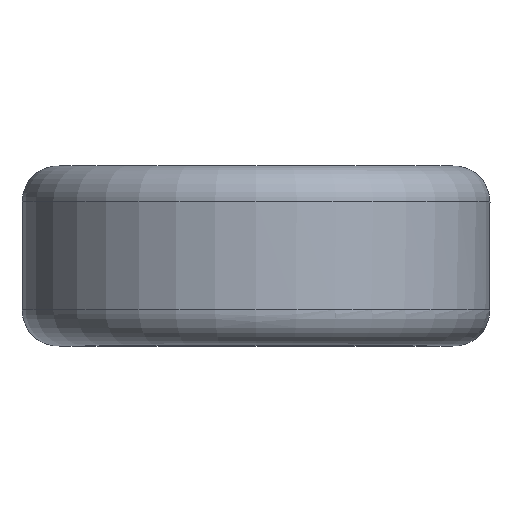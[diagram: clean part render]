
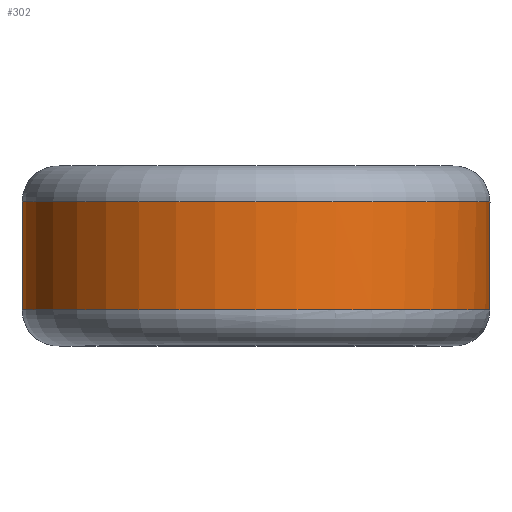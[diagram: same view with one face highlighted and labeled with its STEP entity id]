
A CAD part, top view. The second image highlights one B-rep face of the part: STEP entity #302.
In plain terms, the highlighted cylindrical face has radius 6.5 mm (diameter 13 mm), a full revolution.
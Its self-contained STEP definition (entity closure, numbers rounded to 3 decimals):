
#24=B_SPLINE_CURVE_WITH_KNOTS('',3,(#1104,#1105,#1106,#1107,#1108,#1109,
#1110,#1111,#1112,#1113),.UNSPECIFIED.,.F.,.F.,(4,1,1,1,1,1,1,4),(-0.221,
-0.19,-0.158,-0.126,-0.095,
-0.063,-0.032,0.),.UNSPECIFIED.);
#26=B_SPLINE_CURVE_WITH_KNOTS('',3,(#1182,#1183,#1184,#1185,#1186,#1187,
#1188,#1189,#1190,#1191),.UNSPECIFIED.,.F.,.F.,(4,1,1,1,1,1,1,4),(-0.221,
-0.19,-0.158,-0.126,-0.095,
-0.047,-0.032,0.),.UNSPECIFIED.);
#72=FACE_OUTER_BOUND('',#92,.T.);
#92=EDGE_LOOP('',(#241,#242,#243,#244,#245,#246,#247,#248,#249,#250));
#105=LINE('',#1176,#108);
#108=VECTOR('',#407,6.5);
#120=CIRCLE('',#347,6.5);
#121=CIRCLE('',#348,6.5);
#122=CIRCLE('',#349,6.5);
#123=CIRCLE('',#351,6.5);
#124=CIRCLE('',#352,6.5);
#125=CIRCLE('',#353,6.5);
#143=VERTEX_POINT('',#1100);
#144=VERTEX_POINT('',#1102);
#147=VERTEX_POINT('',#1168);
#148=VERTEX_POINT('',#1171);
#149=VERTEX_POINT('',#1175);
#150=VERTEX_POINT('',#1177);
#151=VERTEX_POINT('',#1179);
#152=VERTEX_POINT('',#1181);
#176=EDGE_CURVE('',#143,#144,#24,.T.);
#181=EDGE_CURVE('',#144,#147,#120,.T.);
#182=EDGE_CURVE('',#148,#143,#121,.T.);
#183=EDGE_CURVE('',#147,#148,#122,.T.);
#184=EDGE_CURVE('',#148,#149,#105,.T.);
#185=EDGE_CURVE('',#149,#150,#123,.T.);
#186=EDGE_CURVE('',#150,#151,#124,.T.);
#187=EDGE_CURVE('',#151,#152,#26,.T.);
#188=EDGE_CURVE('',#152,#149,#125,.T.);
#241=ORIENTED_EDGE('',*,*,#176,.T.);
#242=ORIENTED_EDGE('',*,*,#181,.T.);
#243=ORIENTED_EDGE('',*,*,#183,.T.);
#244=ORIENTED_EDGE('',*,*,#184,.T.);
#245=ORIENTED_EDGE('',*,*,#185,.T.);
#246=ORIENTED_EDGE('',*,*,#186,.T.);
#247=ORIENTED_EDGE('',*,*,#187,.T.);
#248=ORIENTED_EDGE('',*,*,#188,.T.);
#249=ORIENTED_EDGE('',*,*,#184,.F.);
#250=ORIENTED_EDGE('',*,*,#182,.T.);
#292=CYLINDRICAL_SURFACE('',#350,6.5);
#302=ADVANCED_FACE('',(#72),#292,.T.);
#347=AXIS2_PLACEMENT_3D('',#1170,#399,#400);
#348=AXIS2_PLACEMENT_3D('',#1172,#401,#402);
#349=AXIS2_PLACEMENT_3D('',#1173,#403,#404);
#350=AXIS2_PLACEMENT_3D('',#1174,#405,#406);
#351=AXIS2_PLACEMENT_3D('',#1178,#408,#409);
#352=AXIS2_PLACEMENT_3D('',#1180,#410,#411);
#353=AXIS2_PLACEMENT_3D('',#1192,#412,#413);
#399=DIRECTION('center_axis',(0.,-1.,0.));
#400=DIRECTION('ref_axis',(-1.,0.,0.));
#401=DIRECTION('center_axis',(0.,-1.,0.));
#402=DIRECTION('ref_axis',(-1.,0.,0.));
#403=DIRECTION('center_axis',(0.,-1.,0.));
#404=DIRECTION('ref_axis',(-1.,0.,0.));
#405=DIRECTION('center_axis',(0.,-1.,0.));
#406=DIRECTION('ref_axis',(1.,0.,0.));
#407=DIRECTION('',(0.,-1.,0.));
#408=DIRECTION('center_axis',(0.,1.,0.));
#409=DIRECTION('ref_axis',(-1.,0.,0.));
#410=DIRECTION('center_axis',(0.,1.,0.));
#411=DIRECTION('ref_axis',(-1.,0.,0.));
#412=DIRECTION('center_axis',(0.,1.,0.));
#413=DIRECTION('ref_axis',(-1.,0.,0.));
#1100=CARTESIAN_POINT('',(-3.49,1.5,-5.484));
#1102=CARTESIAN_POINT('',(-2.593,1.5,-5.961));
#1104=CARTESIAN_POINT('Ctrl Pts',(-3.49,1.5,-5.484));
#1105=CARTESIAN_POINT('Ctrl Pts',(-3.527,1.404,-5.46));
#1106=CARTESIAN_POINT('Ctrl Pts',(-3.552,1.186,-5.443));
#1107=CARTESIAN_POINT('Ctrl Pts',(-3.432,0.889,-5.521));
#1108=CARTESIAN_POINT('Ctrl Pts',(-3.193,0.721,-5.664));
#1109=CARTESIAN_POINT('Ctrl Pts',(-2.909,0.722,-5.816));
#1110=CARTESIAN_POINT('Ctrl Pts',(-2.657,0.89,-5.934));
#1111=CARTESIAN_POINT('Ctrl Pts',(-2.524,1.186,-5.99));
#1112=CARTESIAN_POINT('Ctrl Pts',(-2.552,1.405,-5.978));
#1113=CARTESIAN_POINT('Ctrl Pts',(-2.593,1.5,-5.961));
#1168=CARTESIAN_POINT('',(0.,1.5,-6.5));
#1170=CARTESIAN_POINT('Origin',(0.,1.5,0.));
#1171=CARTESIAN_POINT('',(-6.5,1.5,0.));
#1172=CARTESIAN_POINT('Origin',(0.,1.5,0.));
#1173=CARTESIAN_POINT('Origin',(0.,1.5,0.));
#1174=CARTESIAN_POINT('Origin',(0.,0.,0.));
#1175=CARTESIAN_POINT('',(-6.5,-1.5,0.));
#1176=CARTESIAN_POINT('',(-6.5,0.,0.));
#1177=CARTESIAN_POINT('',(0.,-1.5,6.5));
#1178=CARTESIAN_POINT('Origin',(0.,-1.5,0.));
#1179=CARTESIAN_POINT('',(3.49,-1.5,-5.484));
#1180=CARTESIAN_POINT('Origin',(0.,-1.5,0.));
#1181=CARTESIAN_POINT('',(2.593,-1.5,-5.961));
#1182=CARTESIAN_POINT('Ctrl Pts',(3.49,-1.5,-5.484));
#1183=CARTESIAN_POINT('Ctrl Pts',(3.527,-1.404,-5.46));
#1184=CARTESIAN_POINT('Ctrl Pts',(3.552,-1.186,-5.443));
#1185=CARTESIAN_POINT('Ctrl Pts',(3.432,-0.889,-5.521));
#1186=CARTESIAN_POINT('Ctrl Pts',(3.194,-0.722,-5.664));
#1187=CARTESIAN_POINT('Ctrl Pts',(2.861,-0.721,-5.841));
#1188=CARTESIAN_POINT('Ctrl Pts',(2.619,-0.935,-5.95));
#1189=CARTESIAN_POINT('Ctrl Pts',(2.532,-1.242,-5.987));
#1190=CARTESIAN_POINT('Ctrl Pts',(2.552,-1.405,-5.978));
#1191=CARTESIAN_POINT('Ctrl Pts',(2.593,-1.5,-5.961));
#1192=CARTESIAN_POINT('Origin',(0.,-1.5,0.));
